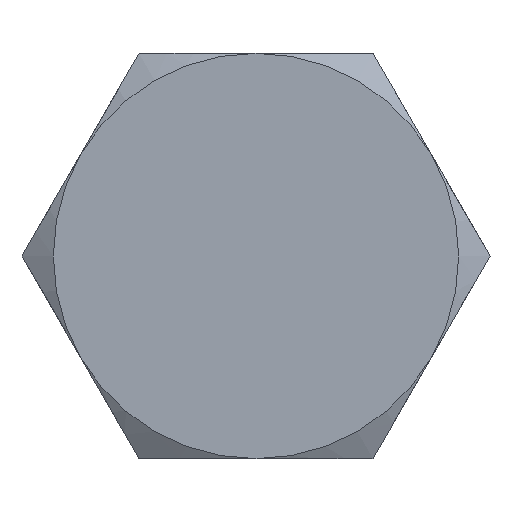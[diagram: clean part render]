
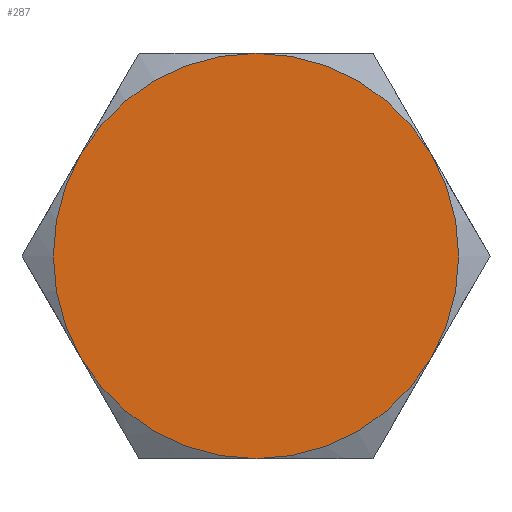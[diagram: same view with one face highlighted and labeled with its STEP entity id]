
A CAD part, left-side view. The second image highlights one B-rep face of the part: STEP entity #287.
In plain terms, the highlighted planar face has unit normal (-1, 0, 0).
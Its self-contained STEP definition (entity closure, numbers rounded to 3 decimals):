
#37=PLANE('',#340);
#57=FACE_OUTER_BOUND('',#77,.T.);
#77=EDGE_LOOP('',(#252,#253,#254,#255,#256,#257));
#115=CIRCLE('',#321,5.);
#116=CIRCLE('',#323,5.);
#117=CIRCLE('',#325,5.);
#118=CIRCLE('',#327,5.);
#119=CIRCLE('',#329,5.);
#120=CIRCLE('',#331,5.);
#127=VERTEX_POINT('',#438);
#129=VERTEX_POINT('',#443);
#131=VERTEX_POINT('',#450);
#132=VERTEX_POINT('',#459);
#135=VERTEX_POINT('',#470);
#136=VERTEX_POINT('',#479);
#154=EDGE_CURVE('',#129,#127,#115,.T.);
#158=EDGE_CURVE('',#131,#129,#116,.T.);
#160=EDGE_CURVE('',#127,#132,#117,.T.);
#164=EDGE_CURVE('',#135,#131,#118,.T.);
#166=EDGE_CURVE('',#132,#136,#119,.T.);
#170=EDGE_CURVE('',#136,#135,#120,.T.);
#252=ORIENTED_EDGE('',*,*,#154,.T.);
#253=ORIENTED_EDGE('',*,*,#160,.T.);
#254=ORIENTED_EDGE('',*,*,#166,.T.);
#255=ORIENTED_EDGE('',*,*,#170,.T.);
#256=ORIENTED_EDGE('',*,*,#164,.T.);
#257=ORIENTED_EDGE('',*,*,#158,.T.);
#287=ADVANCED_FACE('',(#57),#37,.F.);
#321=AXIS2_PLACEMENT_3D('',#444,#364,#365);
#323=AXIS2_PLACEMENT_3D('',#457,#368,#369);
#325=AXIS2_PLACEMENT_3D('',#464,#372,#373);
#327=AXIS2_PLACEMENT_3D('',#477,#376,#377);
#329=AXIS2_PLACEMENT_3D('',#484,#380,#381);
#331=AXIS2_PLACEMENT_3D('',#496,#384,#385);
#340=AXIS2_PLACEMENT_3D('',#524,#414,#415);
#364=DIRECTION('center_axis',(-1.,0.,0.));
#365=DIRECTION('ref_axis',(0.,1.,0.));
#368=DIRECTION('center_axis',(-1.,0.,0.));
#369=DIRECTION('ref_axis',(0.,1.,0.));
#372=DIRECTION('center_axis',(-1.,0.,0.));
#373=DIRECTION('ref_axis',(0.,1.,0.));
#376=DIRECTION('center_axis',(-1.,0.,0.));
#377=DIRECTION('ref_axis',(0.,1.,0.));
#380=DIRECTION('center_axis',(-1.,0.,0.));
#381=DIRECTION('ref_axis',(0.,1.,0.));
#384=DIRECTION('center_axis',(-1.,0.,0.));
#385=DIRECTION('ref_axis',(0.,1.,0.));
#414=DIRECTION('center_axis',(1.,0.,0.));
#415=DIRECTION('ref_axis',(0.,0.,-1.));
#438=CARTESIAN_POINT('',(-4.,4.33,2.5));
#443=CARTESIAN_POINT('',(-4.,0.,5.));
#444=CARTESIAN_POINT('Origin',(-4.,0.,0.));
#450=CARTESIAN_POINT('',(-4.,-4.33,2.5));
#457=CARTESIAN_POINT('Origin',(-4.,0.,0.));
#459=CARTESIAN_POINT('',(-4.,4.33,-2.5));
#464=CARTESIAN_POINT('Origin',(-4.,0.,0.));
#470=CARTESIAN_POINT('',(-4.,-4.33,-2.5));
#477=CARTESIAN_POINT('Origin',(-4.,0.,0.));
#479=CARTESIAN_POINT('',(-4.,0.,-5.));
#484=CARTESIAN_POINT('Origin',(-4.,0.,0.));
#496=CARTESIAN_POINT('Origin',(-4.,0.,0.));
#524=CARTESIAN_POINT('Origin',(-4.,0.,
0.));
